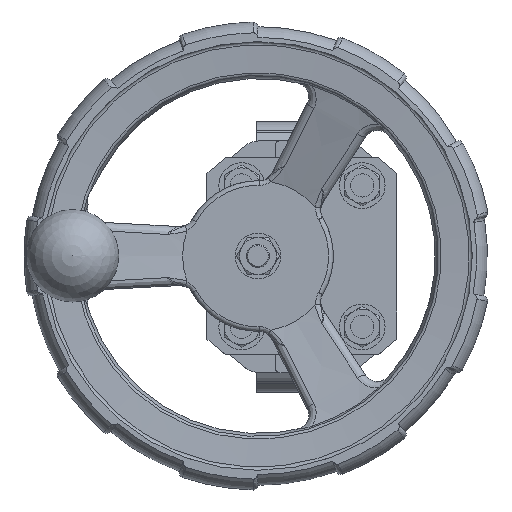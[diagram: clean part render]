
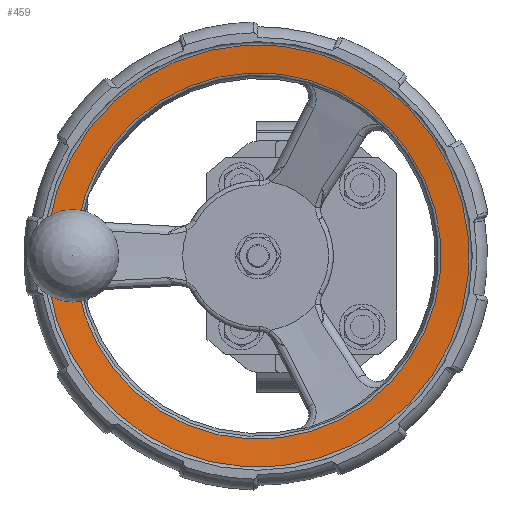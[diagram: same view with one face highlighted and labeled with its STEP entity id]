
A CAD part, top view. The second image highlights one B-rep face of the part: STEP entity #459.
In plain terms, the highlighted conical face has half-angle 85 degrees and reference radius 92.5 mm.
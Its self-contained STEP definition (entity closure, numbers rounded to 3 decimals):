
#459=ADVANCED_FACE('',(#1846),#1847,.F.);
#1846=FACE_OUTER_BOUND('',#6347,.T.);
#1847=CONICAL_SURFACE('',#6348,92.5,1.484);
#6347=EDGE_LOOP('',(#26537,#26538,#26539,#26540,#26541,#26542));
#6348=AXIS2_PLACEMENT_3D('',#26543,#26544,#26545);
#26537=ORIENTED_EDGE('',*,*,#31867,.T.);
#26538=ORIENTED_EDGE('',*,*,#31868,.T.);
#26539=ORIENTED_EDGE('',*,*,#31869,.T.);
#26540=ORIENTED_EDGE('',*,*,#31870,.T.);
#26541=ORIENTED_EDGE('',*,*,#31871,.T.);
#26542=ORIENTED_EDGE('',*,*,#31872,.T.);
#26543=CARTESIAN_POINT('',(-19.,0.,294.772));
#26544=DIRECTION('',(0.,0.,1.));
#26545=DIRECTION('',(1.,0.,0.));
#31867=EDGE_CURVE('',#35579,#35580,#35581,.T.);
#31868=EDGE_CURVE('',#35580,#35582,#35583,.T.);
#31869=EDGE_CURVE('',#35582,#35584,#35585,.T.);
#31870=EDGE_CURVE('',#35584,#35586,#35587,.T.);
#31871=EDGE_CURVE('',#35586,#35588,#35589,.T.);
#31872=EDGE_CURVE('',#35588,#35579,#35590,.T.);
#35579=VERTEX_POINT('',#42974);
#35580=VERTEX_POINT('',#42975);
#35581=B_SPLINE_CURVE_WITH_KNOTS('',3,(#42976,#42977,#42978,#42979),.UNSPECIFIED.,.F.,.F.,(4,4),(0.021,0.032),.UNSPECIFIED.);
#35582=VERTEX_POINT('',#42980);
#35583=CIRCLE('',#42981,91.131);
#35584=VERTEX_POINT('',#42982);
#35585=B_SPLINE_CURVE_WITH_KNOTS('',3,(#42983,#42984,#42985,#42986),.UNSPECIFIED.,.F.,.F.,(4,4),(0.014,0.024),.UNSPECIFIED.);
#35586=VERTEX_POINT('',#42987);
#35587=B_SPLINE_CURVE_WITH_KNOTS('',3,(#42988,#42989,#42990,#42991),.UNSPECIFIED.,.F.,.F.,(4,4),(0.019,0.021),.UNSPECIFIED.);
#35588=VERTEX_POINT('',#42992);
#35589=CIRCLE('',#42993,79.042);
#35590=B_SPLINE_CURVE_WITH_KNOTS('',3,(#42994,#42995,#42996,#42997),.UNSPECIFIED.,.F.,.F.,(4,4),(0.001,0.003),.UNSPECIFIED.);
#42974=CARTESIAN_POINT('',(-99.001,-12.5,293.764));
#42975=CARTESIAN_POINT('',(-109.269,-12.5,294.652));
#42976=CARTESIAN_POINT('',(-99.001,-12.5,293.764));
#42977=CARTESIAN_POINT('',(-102.424,-12.5,294.059));
#42978=CARTESIAN_POINT('',(-105.847,-12.5,294.356));
#42979=CARTESIAN_POINT('',(-109.269,-12.5,294.652));
#42980=CARTESIAN_POINT('',(-109.269,12.5,294.652));
#42981=AXIS2_PLACEMENT_3D('',#55161,#55162,#55163);
#42982=CARTESIAN_POINT('',(-99.001,12.5,293.764));
#42983=CARTESIAN_POINT('',(-109.269,12.5,294.652));
#42984=CARTESIAN_POINT('',(-105.847,12.5,294.356));
#42985=CARTESIAN_POINT('',(-102.424,12.5,294.059));
#42986=CARTESIAN_POINT('',(-99.001,12.5,293.764));
#42987=CARTESIAN_POINT('',(-97.071,12.35,293.595));
#42988=CARTESIAN_POINT('',(-99.001,12.5,293.764));
#42989=CARTESIAN_POINT('',(-98.359,12.5,293.708));
#42990=CARTESIAN_POINT('',(-97.713,12.45,293.652));
#42991=CARTESIAN_POINT('',(-97.071,12.35,293.595));
#42992=CARTESIAN_POINT('',(-97.071,-12.35,293.595));
#42993=AXIS2_PLACEMENT_3D('',#55164,#55165,#55166);
#42994=CARTESIAN_POINT('',(-97.071,-12.35,293.595));
#42995=CARTESIAN_POINT('',(-97.712,-12.45,293.651));
#42996=CARTESIAN_POINT('',(-98.355,-12.5,293.708));
#42997=CARTESIAN_POINT('',(-99.001,-12.5,293.764));
#55161=CARTESIAN_POINT('',(-19.,0.,294.652));
#55162=DIRECTION('',(0.,0.,1.));
#55163=DIRECTION('',(1.,0.,0.));
#55164=CARTESIAN_POINT('',(-19.,0.,293.595));
#55165=DIRECTION('',(0.,0.,-1.));
#55166=DIRECTION('',(-1.,0.,0.));
